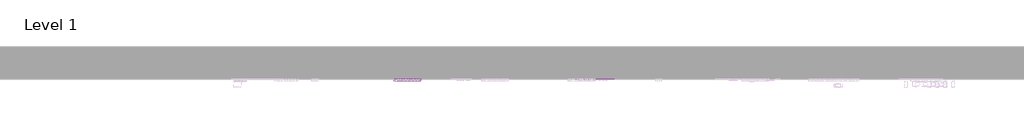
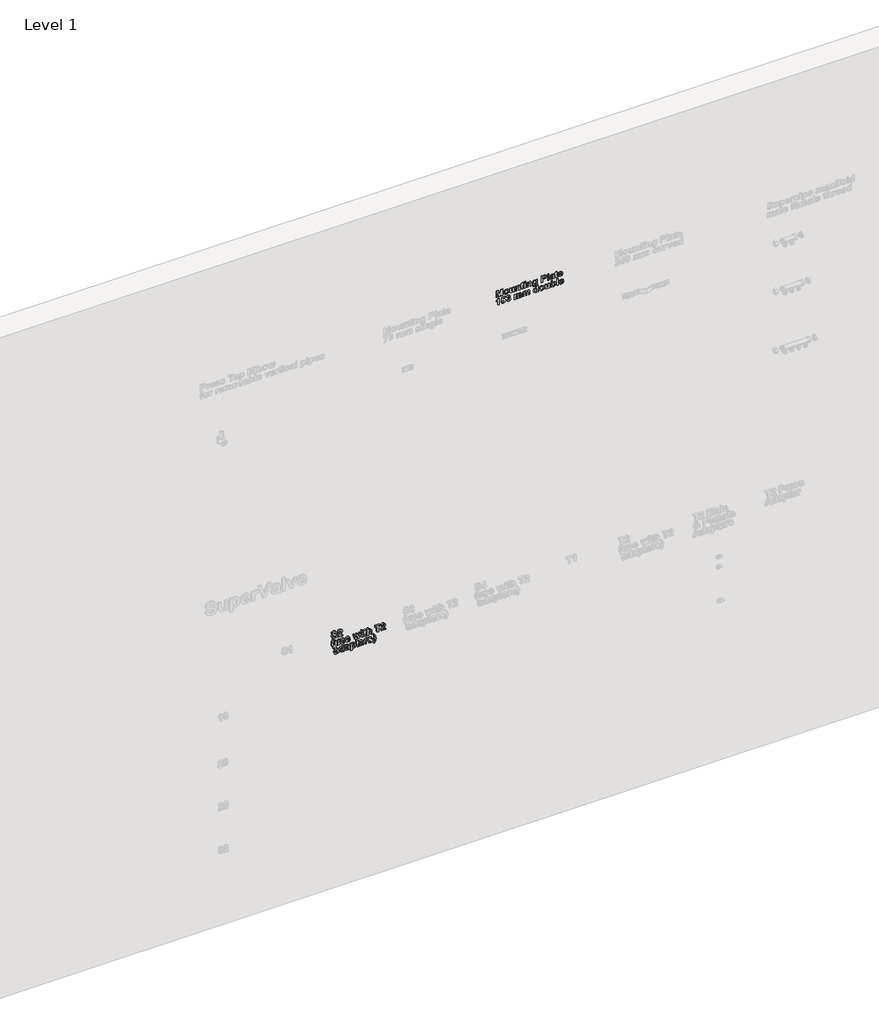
# One storey, part 13 of 58: 2 proxies.
"""IFC4 building model written with IfcOpenShell, lengths in millimetres."""

import ifcopenshell
import ifcopenshell.guid

model = None  # the IFC model being written
_history = None  # IfcOwnerHistory: only IFC2X3 demands one
_inside = {}  # id of a spatial element -> (the spatial element, [elements in it])
_under = {}  # id of a project, library or spatial element -> (it, [spatial elements below it])
_declared = {}  # id of a project -> (the project, [libraries it declares])
_typed = {}  # id of a type object -> (the type object, [elements of that type])
_made_of = {}  # id of a material, layer set ... -> (it, [elements and type objects made of it])


def new_model(schema):
    """Start an empty IFC model of exactly this schema.

    Asked for "IFC4X3", IfcOpenShell would pick the latest addendum, in which some entities
    have other attributes; the version numbers below select the first issue.
    IFC2X3 requires an IfcOwnerHistory on every rooted entity: one is made here for all.
    """
    global model, _history
    if schema == "IFC4X3":
        model = ifcopenshell.file(schema_version=(4, 3, 0, 0))
    else:
        model = ifcopenshell.file(schema=schema)
    _inside.clear()
    _under.clear()
    _declared.clear()
    _typed.clear()
    _made_of.clear()
    _history = None
    if model.schema == "IFC2X3":
        org = make("IfcOrganization", Name="unknown")
        user = make(
            "IfcPersonAndOrganization",
            ThePerson=make("IfcPerson", FamilyName="unknown"),
            TheOrganization=org,
        )
        app = make(
            "IfcApplication",
            ApplicationDeveloper=org,
            Version="unknown",
            ApplicationFullName="unknown",
            ApplicationIdentifier="unknown",
        )
        _history = make(
            "IfcOwnerHistory",
            OwningUser=user,
            OwningApplication=app,
            ChangeAction="ADDED",
            CreationDate=0,
        )
    return model


def make(cls, **values):
    """One entity of the class cls with the attributes given. An attribute that is None is left unset."""
    return model.create_entity(
        cls, **{name: value for name, value in values.items() if value is not None}
    )


def rooted(cls, **values):
    """An entity with a GlobalId (a new one), such as an element, a storey or a relation."""
    return make(cls, GlobalId=ifcopenshell.guid.new(), OwnerHistory=_history, **values)


def si_unit(unit_type, name, prefix=None):
    """IfcSIUnit, for example si_unit("LENGTHUNIT", "METRE", prefix="MILLI")."""
    return make("IfcSIUnit", UnitType=unit_type, Prefix=prefix, Name=name)


def assignment(units):
    """IfcUnitAssignment: the units of a project."""
    return None if units is None else make("IfcUnitAssignment", Units=units)


def point(xyz):
    """IfcCartesianPoint."""
    return None if xyz is None else make("IfcCartesianPoint", Coordinates=xyz)


def direction(xyz):
    """IfcDirection."""
    return None if xyz is None else make("IfcDirection", DirectionRatios=xyz)


def frame(location, z_axis=None, x_axis=None):
    """IfcAxis2Placement3D, a coordinate frame: its origin and axes. An axis left out is left unset."""
    return make(
        "IfcAxis2Placement3D",
        Location=point(location),
        Axis=direction(z_axis),
        RefDirection=direction(x_axis),
    )


def origin():
    """The frame at (0, 0, 0) with its axes left unset."""
    return frame((0.0, 0.0, 0.0))


def place(relative_to, where):
    """IfcLocalPlacement: puts the frame where relative to a parent placement (None: the world)."""
    return make(
        "IfcLocalPlacement", PlacementRelTo=relative_to, RelativePlacement=where
    )


def context(
    kind, dimensions, precision=None, world=None, true_north=None, identifier=None
):
    """IfcGeometricRepresentationContext, for example the 3D "Model" context."""
    return make(
        "IfcGeometricRepresentationContext",
        ContextIdentifier=identifier,
        ContextType=kind,
        CoordinateSpaceDimension=dimensions,
        Precision=precision,
        WorldCoordinateSystem=world,
        TrueNorth=true_north,
    )


def project(units=None, contexts=None):
    """IfcProject with its units and contexts."""
    return rooted(
        "IfcProject",
        Name="project",
        RepresentationContexts=contexts,
        UnitsInContext=assignment(units),
    )


def spatial(cls, under=None, at=None, **own):
    """A site, building, storey or space (cls), placed at a placement, below another one or the project."""
    s = rooted(cls, ObjectPlacement=at, **own)
    if under is not None:
        _under.setdefault(under.id(), (under, []))[1].append(s)
    return s


def polyline(points):
    """IfcPolyline through the points."""
    return make("IfcPolyline", Points=[point(p) for p in points])


def outline(outer, holes=None, kind="AREA"):
    """IfcArbitraryClosedProfileDef: a profile drawn as a closed curve; with holes, ...WithVoids."""
    if holes is None:
        return make("IfcArbitraryClosedProfileDef", ProfileType=kind, OuterCurve=outer)
    return make(
        "IfcArbitraryProfileDefWithVoids",
        ProfileType=kind,
        OuterCurve=outer,
        InnerCurves=holes,
    )


def extrude(swept, where, along, depth):
    """IfcExtrudedAreaSolid: the profile swept, set in the frame where, extruded along a direction by depth."""
    return make(
        "IfcExtrudedAreaSolid",
        SweptArea=swept,
        Position=where,
        ExtrudedDirection=direction(along),
        Depth=depth,
    )


def shape(context_of_items, identifier, shape_type, items):
    """IfcShapeRepresentation: the items that make up one representation, for example the "Body"."""
    return make(
        "IfcShapeRepresentation",
        ContextOfItems=context_of_items,
        RepresentationIdentifier=identifier,
        RepresentationType=shape_type,
        Items=items,
    )


def made_of(thing, what):
    """Note that an element or type object is made of a material, layer set ...; save() writes the relation."""
    if what is not None:
        _made_of.setdefault(what.id(), (what, []))[1].append(thing)
    return thing


def element(
    cls,
    number,
    at=None,
    inside=None,
    cuts=None,
    type_object=None,
    material=None,
    context=None,
    identifier="Body",
    shape_type=None,
    held_by="IfcProductDefinitionShape",
    body=None,
    shapes=None,
    **own,
):
    """One element of the class cls, such as IfcWall. Its Tag is "e" and its number.

    at: its placement. inside: the storey or other place that contains it. cuts: it is an
    opening in that element (IfcRelVoidsElement). A single representation is given by context,
    identifier, shape_type and body (its items); several are given by shapes. held_by: the class
    of the entity that holds the representations. save() writes the other relations.
    """
    e = rooted(cls, Tag="e%d" % number, ObjectPlacement=at, **own)
    if body is not None:
        shapes = [shape(context, identifier, shape_type, body)]
    if shapes is not None:
        e.Representation = make(held_by, Representations=shapes)
    if inside is not None:
        _inside.setdefault(inside.id(), (inside, []))[1].append(e)
    if cuts is not None:
        rooted(
            "IfcRelVoidsElement", RelatingBuildingElement=cuts, RelatedOpeningElement=e
        )
    if type_object is not None:
        _typed.setdefault(type_object.id(), (type_object, []))[1].append(e)
    return made_of(e, material)


def aggregate(whole, parts):
    """IfcRelAggregates: a whole, such as a stair, and the parts it consists of."""
    return rooted("IfcRelAggregates", RelatingObject=whole, RelatedObjects=parts)


def save(model, path):
    """Write the relations noted so far, then the file.

    IfcRelAggregates (storeys below a building ...), IfcRelContainedInSpatialStructure (elements
    in a storey), IfcRelDefinesByType, IfcRelAssociatesMaterial and IfcRelDeclares: one each for
    every whole, place, type object, material and project.
    """
    for whole, parts in _under.values():
        aggregate(whole, parts)
    for where, things in _inside.values():
        rooted(
            "IfcRelContainedInSpatialStructure",
            RelatedElements=things,
            RelatingStructure=where,
        )
    for kind, things in _typed.values():
        rooted("IfcRelDefinesByType", RelatedObjects=things, RelatingType=kind)
    for what, things in _made_of.values():
        rooted("IfcRelAssociatesMaterial", RelatedObjects=things, RelatingMaterial=what)
    for by, libraries in _declared.values():
        rooted("IfcRelDeclares", RelatingContext=by, RelatedDefinitions=libraries)
    model.write(path)


model = new_model("IFC4")

# Units and contexts
model_context = context("Model", 3, world=origin())
ifc_project = project(units=[si_unit("LENGTHUNIT", "METRE", prefix="MILLI")], contexts=[model_context])

# Site, building, storey
site = spatial("IfcSite", under=ifc_project)
building = spatial("IfcBuilding", under=site)
storey = spatial("IfcBuildingStorey", under=building, Name="Level 1", Elevation=27.3876384)

# Proxies
placement = place(None, origin())
element("IfcBuildingElementProxy", 1, Name="50mm Arial", ObjectType="50mm Arial", at=placement, inside=storey, context=model_context, shape_type="SweptSolid", body=[
    extrude(outline(polyline([(4250.1944926, 13698.641265), (4250.1944926, 13708.3580212), (4290.352024, 13708.762886), (4250.1944926, 13717.6572605), (4250.1944926, 13729.0314322), (4290.352024, 13737.9131546), (4250.1944926, 13738.3180194), (4250.1944926, 13748.0347756), (4301.2074626, 13748.0347756), (4301.2074626, 13731.384709), (4266.4143903, 13723.3380203), (4301.2074626, 13715.2913316), (4301.2074626, 13698.641265), (4250.1944926, 13698.641265)])), frame((0.0, 4542.8703674, 0.0), z_axis=(0.0, 1.0, 0.0), x_axis=(0.0, 0.0, 1.0)), (0.0, 0.0, 1.0), 2.0),
    extrude(outline(polyline([(4269.3496604, 13755.3223428), (4258.4689177, 13757.7199018), (4251.6937577, 13764.7164723), (4249.3847629, 13774.3889464), (4254.9326764, 13787.9772226), (4268.9194915, 13793.3796379), (4282.7734602, 13788.0341568), (4288.2517876, 13774.3130342), (4285.8352506, 13764.5077139), (4278.8323541, 13757.7199018), (4269.3496604, 13755.3223428)]), holes=[polyline([(4268.8182753, 13765.039099), (4277.832844, 13767.7276546), (4280.9642205, 13774.3636423), (4277.832844, 13780.9869781), (4268.8941874, 13783.6628817), (4259.8037065, 13780.9869781), (4256.67233, 13774.3636423), (4259.8037065, 13767.7276546), (4268.8182753, 13765.039099)])]), frame((0.0, 4542.8703674, 0.0), z_axis=(0.0, 1.0, 0.0), x_axis=(0.0, 0.0, 1.0)), (0.0, 0.0, 1.0), 2.0),
    extrude(outline(polyline([(4250.1944926, 13824.1493658), (4250.1944926, 13833.866122), (4287.4420579, 13833.866122), (4287.4420579, 13824.1493658), (4271.6396771, 13824.1493658), (4261.5243821, 13823.4345263), (4258.0640529, 13820.7776008), (4256.67233, 13816.3810217), (4257.7161222, 13812.8321283), (4260.537524, 13810.9090203), (4270.2226502, 13810.3839612), (4287.4420579, 13810.3839612), (4287.4420579, 13800.667205), (4263.896637, 13800.667205), (4255.6538419, 13801.9324076), (4251.0295263, 13806.0316641), (4249.3847629, 13812.4209374), (4251.0611564, 13819.0695772), (4255.6601679, 13824.1493658), (4250.1944926, 13824.1493658)])), frame((0.0, 4542.8703674, 0.0), z_axis=(0.0, 1.0, 0.0), x_axis=(0.0, 0.0, 1.0)), (0.0, 0.0, 1.0), 2.0),
    extrude(outline(polyline([(4250.1944926, 13876.7817952), (4273.3223966, 13876.7817952), (4279.9457324, 13876.2693881), (4284.076619, 13874.4411703), (4287.0751492, 13870.5696502), (4288.2517876, 13864.9268465), (4286.7082404, 13858.5154322), (4282.0775988, 13853.2996344), (4287.4420579, 13853.2996344), (4287.4420579, 13843.5828782), (4250.1944926, 13843.5828782), (4250.1944926, 13853.2996344), (4267.1861639, 13853.2996344), (4275.8085198, 13854.0271259), (4279.5535196, 13856.7220075), (4280.9642205, 13861.1691947), (4279.9773624, 13864.4713736), (4277.2065687, 13866.4577417), (4269.3370083, 13867.065039), (4250.1944926, 13867.065039), (4250.1944926, 13876.7817952)])), frame((0.0, 4542.8703674, 0.0), z_axis=(0.0, 1.0, 0.0), x_axis=(0.0, 0.0, 1.0)), (0.0, 0.0, 1.0), 2.0),
    extrude(outline(polyline([(4287.4420579, 13904.3126044), (4287.4420579, 13897.0250372), (4300.3977329, 13897.0250372), (4294.7296251, 13887.308281), (4287.4420579, 13887.308281), (4287.4420579, 13882.4499029), (4280.1544908, 13882.4499029), (4280.1544908, 13887.308281), (4263.6309445, 13887.308281), (4256.5584618, 13887.6245817), (4252.6489857, 13889.0479346), (4250.2957088, 13892.2552233), (4249.3847629, 13897.1642095), (4250.7005736, 13905.122334), (4257.60858, 13904.7174692), (4256.67233, 13900.1627397), (4257.1973891, 13898.2522838), (4258.5258519, 13897.2464477), (4264.1749816, 13897.0250372), (4280.1544908, 13897.0250372), (4280.1544908, 13904.3126044), (4287.4420579, 13904.3126044)])), frame((0.0, 4542.8703674, 0.0), z_axis=(0.0, 1.0, 0.0), x_axis=(0.0, 0.0, 1.0)), (0.0, 0.0, 1.0), 2.0),
    extrude(outline(polyline([(13919.6974683, 4542.8703674), (13909.9807121, 4542.8703674), (13909.9807121, 4544.8703674), (13919.6974683, 4544.8703674), (13919.6974683, 4542.8703674)])), frame((0.0, 0.0, 4292.300436), z_axis=(0.0, 0.0, 1.0), x_axis=(1.0, 0.0, 0.0)), (0.0, 0.0, 1.0), 8.9070265),
    extrude(outline(polyline([(13919.6974683, 4542.8703674), (13909.9807121, 4542.8703674), (13909.9807121, 4544.8703674), (13919.6974683, 4544.8703674), (13919.6974683, 4542.8703674)])), frame((0.0, 0.0, 4250.1944926), z_axis=(0.0, 0.0, 1.0), x_axis=(1.0, 0.0, 0.0)), (0.0, 0.0, 1.0), 37.2475654),
    extrude(outline(polyline([(4250.1944926, 13962.6131415), (4273.3223966, 13962.6131415), (4279.9457324, 13962.1007344), (4284.076619, 13960.2725166), (4287.0751492, 13956.4009966), (4288.2517876, 13950.7581929), (4286.7082404, 13944.3467785), (4282.0775988, 13939.1309807), (4287.4420579, 13939.1309807), (4287.4420579, 13929.4142245), (4250.1944926, 13929.4142245), (4250.1944926, 13939.1309807), (4267.1861639, 13939.1309807), (4275.8085198, 13939.8584722), (4279.5535196, 13942.5533538), (4280.9642205, 13947.0005411), (4279.9773624, 13950.3027199), (4277.2065687, 13952.2890881), (4269.3370083, 13952.8963853), (4250.1944926, 13952.8963853), (4250.1944926, 13962.6131415)])), frame((0.0, 4542.8703674, 0.0), z_axis=(0.0, 1.0, 0.0), x_axis=(0.0, 0.0, 1.0)), (0.0, 0.0, 1.0), 2.0),
    extrude(outline(polyline([(4247.1959623, 13971.50119), (4238.7317567, 13975.3284279), (4235.6193583, 13988.372667), (4236.6631504, 13996.4256818), (4239.5414864, 14001.5117963), (4244.6086229, 14004.4723705), (4254.3570092, 14005.5288147), (4287.4420579, 14005.5288147), (4287.4420579, 13995.8120585), (4282.3938995, 13995.8120585), (4288.2517876, 13984.9313159), (4283.3111714, 13974.2087236), (4269.0080556, 13969.9007086), (4256.5331577, 13973.1902355), (4251.7791588, 13978.1276887), (4250.1944926, 13984.5644071), (4256.5078537, 13995.8120585), (4251.0801344, 13995.8120585), (4246.550709, 13995.3818896), (4244.0582598, 13993.5599978), (4242.9069254, 13988.1702346), (4243.8178713, 13984.0583261), (4246.1458441, 13982.8563836), (4247.1959623, 13971.50119)]), holes=[polyline([(4269.3749644, 13979.6174648), (4278.1048625, 13981.8631995), (4280.9642205, 13987.5755894), (4278.0479284, 13993.4777596), (4269.1092719, 13995.8120585), (4260.4173298, 13993.3765434), (4257.4820597, 13987.411113), (4260.3414176, 13981.8631995), (4269.3749644, 13979.6174648)])]), frame((0.0, 4542.8703674, 0.0), z_axis=(0.0, 1.0, 0.0), x_axis=(0.0, 0.0, 1.0)), (0.0, 0.0, 1.0), 2.0),
    extrude(outline(polyline([(4250.1944926, 14034.6790832), (4250.1944926, 14044.3958394), (4269.6280049, 14044.3958394), (4269.6280049, 14051.2026296), (4270.3491704, 14062.0201121), (4272.7593814, 14067.4288533), (4277.7569318, 14071.8191064), (4285.6075141, 14073.546108), (4295.4824207, 14070.6045119), (4300.448341, 14063.2979667), (4301.2074626, 14051.1140654), (4301.2074626, 14034.6790832), (4250.1944926, 14034.6790832)]), holes=[polyline([(4292.300436, 14044.3958394), (4292.300436, 14049.7223425), (4291.9714834, 14057.655163), (4289.8206389, 14062.0770462), (4285.4556898, 14063.8293518), (4281.67906, 14062.5831272), (4279.294153, 14059.1417761), (4278.5350314, 14050.430856), (4278.5350314, 14044.3958394), (4292.300436, 14044.3958394)])]), frame((0.0, 4542.8703674, 0.0), z_axis=(0.0, 1.0, 0.0), x_axis=(0.0, 0.0, 1.0)), (0.0, 0.0, 1.0), 2.0),
    extrude(outline(polyline([(14091.360161, 4542.8703674), (14081.6434048, 4542.8703674), (14081.6434048, 4544.8703674), (14091.360161, 4544.8703674), (14091.360161, 4542.8703674)])), frame((0.0, 0.0, 4250.1944926), z_axis=(0.0, 0.0, 1.0), x_axis=(1.0, 0.0, 0.0)), (0.0, 0.0, 1.0), 51.01297),
    extrude(outline(polyline([(4276.1058424, 14109.174214), (4279.8887983, 14111.2238423), (4280.9642205, 14114.7537576), (4279.7116699, 14119.3021611), (4274.486383, 14120.5104296), (4272.069846, 14111.4642308), (4269.7798292, 14104.0627954), (4265.9968734, 14100.0710811), (4260.3793737, 14098.6477282), (4252.5034874, 14101.8423648), (4249.3847629, 14110.578589), (4250.6689435, 14116.4870852), (4253.281587, 14122.0286727), (4250.1944926, 14122.9396186), (4250.1944926, 14132.6563748), (4255.1920429, 14130.7395928), (4262.429002, 14130.2271858), (4273.9170418, 14130.2271858), (4282.7291782, 14128.9872872), (4286.6892624, 14124.7109023), (4288.2517876, 14115.4622711), (4285.6707743, 14105.1571957), (4277.7253018, 14100.2671875), (4276.1058424, 14109.174214)]), holes=[polyline([(4267.1988159, 14120.5104296), (4265.4401842, 14120.5104296), (4261.1511473, 14120.1561729), (4258.2411813, 14118.0053284), (4256.67233, 14113.3620347), (4258.0197708, 14109.7751853), (4261.2144075, 14108.3644844), (4264.3141539, 14110.123116), (4265.8513751, 14115.0321022), (4267.1988159, 14120.5104296)])]), frame((0.0, 4542.8703674, 0.0), z_axis=(0.0, 1.0, 0.0), x_axis=(0.0, 0.0, 1.0)), (0.0, 0.0, 1.0), 2.0),
    extrude(outline(polyline([(4287.4420579, 14157.757995), (4287.4420579, 14150.4704278), (4300.3977329, 14150.4704278), (4294.7296251, 14140.7536717), (4287.4420579, 14140.7536717), (4287.4420579, 14135.8952936), (4280.1544908, 14135.8952936), (4280.1544908, 14140.7536717), (4263.6309445, 14140.7536717), (4256.5584618, 14141.0699723), (4252.6489857, 14142.4933253), (4250.2957088, 14145.7006139), (4249.3847629, 14150.6096001), (4250.7005736, 14158.5677247), (4257.60858, 14158.1628598), (4256.67233, 14153.6081304), (4257.1973891, 14151.6976744), (4258.5258519, 14150.6918383), (4264.1749816, 14150.4704278), (4280.1544908, 14150.4704278), (4280.1544908, 14157.757995), (4287.4420579, 14157.757995)])), frame((0.0, 4542.8703674, 0.0), z_axis=(0.0, 1.0, 0.0), x_axis=(0.0, 0.0, 1.0)), (0.0, 0.0, 1.0), 2.0),
    extrude(outline(polyline([(4261.5307081, 14184.4790745), (4257.8236644, 14182.1890578), (4256.67233, 14178.45671), (4259.2280393, 14173.0036867), (4266.3890862, 14170.7136699), (4266.3890862, 14195.0055604), (4282.8746765, 14190.514091), (4288.2517876, 14177.6975884), (4283.0138487, 14165.7287715), (4268.5399307, 14160.9969137), (4255.723428, 14164.5647851), (4250.9694292, 14170.3056421), (4249.3847629, 14178.4946661), (4252.0733185, 14188.4012027), (4259.9112487, 14194.1958307), (4261.5307081, 14184.4790745)]), holes=[polyline([(4272.057194, 14185.2888042), (4272.057194, 14170.8781462), (4278.5729875, 14172.9024705), (4280.9642205, 14178.1151053), (4278.6931818, 14183.1253077), (4272.057194, 14185.2888042)])]), frame((0.0, 4542.8703674, 0.0), z_axis=(0.0, 1.0, 0.0), x_axis=(0.0, 0.0, 1.0)), (0.0, 0.0, 1.0), 2.0),
    extrude(outline(polyline([(4187.2388176, 13721.3136961), (4238.2517876, 13721.3136961), (4238.2517876, 13713.570656), (4230.0596006, 13707.5609435), (4225.2961127, 13699.4509947), (4215.5793565, 13699.4509947), (4223.7019574, 13711.5969399), (4187.2388176, 13711.5969399), (4187.2388176, 13721.3136961)])), frame((0.0, 4542.8703674, 0.0), z_axis=(0.0, 1.0, 0.0), x_axis=(0.0, 0.0, 1.0)), (0.0, 0.0, 1.0), 2.0),
    extrude(outline(polyline([(4201.5988675, 13735.8888304), (4190.5409965, 13741.0445311), (4186.429088, 13752.1846403), (4188.0675254, 13759.8043231), (4192.9828376, 13765.557832), (4203.9015363, 13769.0877474), (4215.8387231, 13764.8493186), (4220.4377346, 13754.5252651), (4218.4513665, 13748.2625121), (4227.7253018, 13750.2235762), (4227.7253018, 13766.6585583), (4237.4420579, 13766.6585583), (4237.4420579, 13742.3666679), (4208.7346103, 13736.6985601), (4207.4820597, 13745.1248096), (4211.5307081, 13752.2352484), (4209.569644, 13757.3909491), (4203.6864518, 13759.3709912), (4197.4173728, 13757.2391248), (4195.3361145, 13752.0328159), (4197.2971785, 13747.2756541), (4202.6236816, 13744.7958569), (4201.5988675, 13735.8888304)])), frame((0.0, 4542.8703674, 0.0), z_axis=(0.0, 1.0, 0.0), x_axis=(0.0, 0.0, 1.0)), (0.0, 0.0, 1.0), 2.0),
    extrude(outline(polyline([(4201.4976513, 13774.7558552), (4190.5979306, 13779.8103397), (4186.429088, 13790.7859725), (4191.1166637, 13802.4574667), (4202.4465532, 13807.1450425), (4210.2718315, 13804.500769), (4214.4406742, 13797.4409383), (4219.1187609, 13802.8971246), (4225.1569404, 13804.7158534), (4233.6591021, 13801.3251104), (4238.2517876, 13790.4190637), (4236.5943722, 13783.2390388), (4232.0459687, 13778.2414884), (4224.3219067, 13775.5655848), (4222.8669237, 13785.282341), (4227.6936717, 13787.0219946), (4229.3447611, 13790.4823238), (4227.9214082, 13793.7655247), (4224.1068222, 13794.9990972), (4219.6027009, 13793.3480078), (4218.0085456, 13788.5592158), (4209.9998129, 13787.7115301), (4210.7209784, 13791.5703981), (4208.7093062, 13795.7265887), (4203.2562829, 13797.4282863), (4197.4806329, 13795.5684384), (4195.3361145, 13790.9757529), (4197.2086143, 13786.6614119), (4202.6236816, 13784.4726114), (4201.4976513, 13774.7558552)])), frame((0.0, 4542.8703674, 0.0), z_axis=(0.0, 1.0, 0.0), x_axis=(0.0, 0.0, 1.0)), (0.0, 0.0, 1.0), 2.0),
    extrude(outline(polyline([(4224.486383, 13833.866122), (4187.2388176, 13833.866122), (4187.2388176, 13843.5828782), (4205.4703875, 13843.5828782), (4213.2071016, 13844.3419998), (4216.774973, 13846.847101), (4218.0085456, 13850.7818811), (4217.230446, 13853.6602171), (4214.864517, 13855.2227424), (4207.7983604, 13855.7288234), (4187.2388176, 13855.7288234), (4187.2388176, 13865.4455796), (4205.2553031, 13865.4455796), (4213.0109952, 13866.2236792), (4216.7370169, 13868.7667365), (4218.0085456, 13872.5307143), (4215.8830052, 13876.6046668), (4208.6840022, 13877.5915248), (4187.2388176, 13877.5915248), (4187.2388176, 13887.308281), (4211.0372791, 13887.308281), (4218.7423631, 13886.321423), (4223.6323713, 13882.1715584), (4225.2961127, 13875.4027243), (4223.8727598, 13869.47525), (4219.5647448, 13864.3068972), (4223.8727598, 13860.2645748), (4225.2961127, 13854.4509688), (4219.5014847, 13843.5828782), (4224.486383, 13843.5828782), (4224.486383, 13833.866122)])), frame((0.0, 4542.8703674, 0.0), z_axis=(0.0, 1.0, 0.0), x_axis=(0.0, 0.0, 1.0)), (0.0, 0.0, 1.0), 2.0),
    extrude(outline(polyline([(4224.486383, 13896.2153075), (4187.2388176, 13896.2153075), (4187.2388176, 13905.9320637), (4205.4703875, 13905.9320637), (4213.2071016, 13906.6911853), (4216.774973, 13909.1962865), (4218.0085456, 13913.1310667), (4217.230446, 13916.0094027), (4214.864517, 13917.5719279), (4207.7983604, 13918.078009), (4187.2388176, 13918.078009), (4187.2388176, 13927.7947652), (4205.2553031, 13927.7947652), (4213.0109952, 13928.5728648), (4216.7370169, 13931.1159221), (4218.0085456, 13934.8798999), (4215.8830052, 13938.9538523), (4208.6840022, 13939.9407104), (4187.2388176, 13939.9407104), (4187.2388176, 13949.6574666), (4211.0372791, 13949.6574666), (4218.7423631, 13948.6706085), (4223.6323713, 13944.5207439), (4225.2961127, 13937.7519098), (4223.8727598, 13931.8244355), (4219.5647448, 13926.6560828), (4223.8727598, 13922.6137604), (4225.2961127, 13916.8001543), (4219.5014847, 13905.9320637), (4224.486383, 13905.9320637), (4224.486383, 13896.2153075)])), frame((0.0, 4542.8703674, 0.0), z_axis=(0.0, 1.0, 0.0), x_axis=(0.0, 0.0, 1.0)), (0.0, 0.0, 1.0), 2.0),
    extrude(outline(polyline([(4187.2388176, 14012.0066521), (4238.2517876, 14012.0066521), (4238.2517876, 14002.2898959), (4220.1973461, 14002.2898959), (4225.2961127, 13991.738106), (4220.3744745, 13980.7308431), (4206.0017726, 13976.3785461), (4191.5911147, 13980.7371692), (4186.429088, 13991.2067209), (4187.9536571, 13997.1594993), (4192.6032768, 14002.2898959), (4187.2388176, 14002.2898959), (4187.2388176, 14012.0066521)]), holes=[polyline([(4206.5711138, 13986.0953023), (4215.1365356, 13988.4232751), (4218.0085456, 13994.1925991), (4215.1049055, 14000.0188572), (4205.5969078, 14002.2898959), (4196.6962073, 13999.9492711), (4193.7166551, 13994.2558593), (4197.6893913, 13987.7147617), (4206.5711138, 13986.0953023)])]), frame((0.0, 4542.8703674, 0.0), z_axis=(0.0, 1.0, 0.0), x_axis=(0.0, 0.0, 1.0)), (0.0, 0.0, 1.0), 2.0),
    extrude(outline(polyline([(4206.3939854, 14019.2942193), (4195.5132428, 14021.6917783), (4188.7380827, 14028.6883488), (4186.429088, 14038.3608229), (4191.9770015, 14051.9490991), (4205.9638165, 14057.3515144), (4219.8177853, 14052.0060332), (4225.2961127, 14038.2849107), (4222.8795757, 14028.4795904), (4215.8766791, 14021.6917783), (4206.3939854, 14019.2942193)]), holes=[polyline([(4205.8626003, 14029.0109755), (4214.8771691, 14031.6995311), (4218.0085456, 14038.3355188), (4214.8771691, 14044.9588546), (4205.9385125, 14047.6347582), (4196.8480316, 14044.9588546), (4193.7166551, 14038.3355188), (4196.8480316, 14031.6995311), (4205.8626003, 14029.0109755)])]), frame((0.0, 4542.8703674, 0.0), z_axis=(0.0, 1.0, 0.0), x_axis=(0.0, 0.0, 1.0)), (0.0, 0.0, 1.0), 2.0),
    extrude(outline(polyline([(4187.2388176, 14088.1212423), (4187.2388176, 14097.8379985), (4224.486383, 14097.8379985), (4224.486383, 14088.1212423), (4208.6840022, 14088.1212423), (4198.5687072, 14087.4064028), (4195.108378, 14084.7494773), (4193.7166551, 14080.3528981), (4194.7604473, 14076.8040048), (4197.5818491, 14074.8808968), (4207.2669752, 14074.3558377), (4224.486383, 14074.3558377), (4224.486383, 14064.6390815), (4200.9409621, 14064.6390815), (4192.698167, 14065.9042841), (4188.0738514, 14070.0035406), (4186.429088, 14076.3928139), (4188.1054814, 14083.0414537), (4192.704493, 14088.1212423), (4187.2388176, 14088.1212423)])), frame((0.0, 4542.8703674, 0.0), z_axis=(0.0, 1.0, 0.0), x_axis=(0.0, 0.0, 1.0)), (0.0, 0.0, 1.0), 2.0),
    extrude(outline(polyline([(4187.2388176, 14107.5547547), (4187.2388176, 14117.2715109), (4192.6032768, 14117.2715109), (4187.9852872, 14122.3639514), (4186.429088, 14128.3546859), (4191.5784627, 14138.8558677), (4206.2421611, 14143.1828607), (4220.3744745, 14138.8305637), (4225.2961127, 14127.8233008), (4220.1973461, 14117.2715109), (4238.2517876, 14117.2715109), (4238.2517876, 14107.5547547), (4187.2388176, 14107.5547547)]), holes=[polyline([(4206.5711138, 14117.2715109), (4215.1744917, 14119.5805057), (4218.0085456, 14125.3688077), (4215.1049055, 14131.1950658), (4205.6222118, 14133.4661045), (4196.5886651, 14131.2077178), (4193.7166551, 14125.7483685), (4197.7653035, 14119.0680986), (4206.5711138, 14117.2715109)])]), frame((0.0, 4542.8703674, 0.0), z_axis=(0.0, 1.0, 0.0), x_axis=(0.0, 0.0, 1.0)), (0.0, 0.0, 1.0), 2.0),
    extrude(outline(polyline([(14160.187184, 4542.8703674), (14150.4704278, 4542.8703674), (14150.4704278, 4544.8703674), (14160.187184, 4544.8703674), (14160.187184, 4542.8703674)])), frame((0.0, 0.0, 4187.2388176), z_axis=(0.0, 0.0, 1.0), x_axis=(1.0, 0.0, 0.0)), (0.0, 0.0, 1.0), 51.01297),
    extrude(outline(polyline([(4198.5750332, 14190.956912), (4194.8679895, 14188.6668952), (4193.7166551, 14184.9345475), (4196.2723644, 14179.4815241), (4203.4334113, 14177.1915074), (4203.4334113, 14201.4833978), (4219.9190015, 14196.9919285), (4225.2961127, 14184.1754259), (4220.0581738, 14172.206609), (4205.5842558, 14167.4747512), (4192.7677531, 14171.0426226), (4188.0137542, 14176.7834795), (4186.429088, 14184.9725035), (4189.1176435, 14194.8790401), (4196.9555738, 14200.6736682), (4198.5750332, 14190.956912)]), holes=[polyline([(4209.1015191, 14191.7666417), (4209.1015191, 14177.3559837), (4215.6173126, 14179.3803079), (4218.0085456, 14184.5929427), (4215.7375068, 14189.6031452), (4209.1015191, 14191.7666417)])]), frame((0.0, 4542.8703674, 0.0), z_axis=(0.0, 1.0, 0.0), x_axis=(0.0, 0.0, 1.0)), (0.0, 0.0, 1.0), 2.0),
])
element("IfcBuildingElementProxy", 2, Name="50mm Arial", ObjectType="50mm Arial", at=placement, inside=storey, context=model_context, shape_type="SweptSolid", body=[
    extrude(outline(polyline([(2015.3412334, 12467.5935898), (2002.0755838, 12473.7551266), (1997.5271803, 12488.5579974), (1999.3743762, 12499.6095424), (2005.0171799, 12506.4669406), (2013.1650848, 12508.8898036), (2021.2244256, 12506.8401754), (2026.3674743, 12501.1720676), (2029.9606497, 12489.9940024), (2033.2818066, 12480.4733526), (2036.330945, 12478.9298054), (2039.4433434, 12480.6251769), (2041.2525832, 12487.88744), (2039.5508857, 12494.624644), (2033.9650161, 12497.5535881), (2033.9650161, 12507.2703443), (2045.7440525, 12502.1905557), (2050.1596097, 12487.7735718), (2048.388326, 12477.765819), (2043.2389513, 12471.4145018), (2035.9766882, 12469.2130492), (2025.741199, 12474.0081672), (2020.7689526, 12485.8757678), (2018.6054561, 12494.3020173), (2016.4229816, 12498.0912992), (2013.3801693, 12499.1730475), (2008.5154652, 12496.56673), (2006.4342068, 12488.8110379), (2008.7874837, 12481.1059539), (2016.150963, 12477.310346), (2015.3412334, 12467.5935898)])), frame((0.0, 4529.8703674, 0.0), z_axis=(0.0, 1.0, 0.0), x_axis=(0.0, 0.0, 1.0)), (0.0, 0.0, 1.0), 15.0),
    extrude(outline(polyline([(2008.0536662, 12547.7568284), (2008.0536662, 12529.6517788), (2010.7105917, 12531.4736706), (2016.2395272, 12537.0215841), (2022.6161485, 12543.0629267), (2029.0054217, 12546.6307981), (2035.4326511, 12547.7568284), (2045.3581657, 12543.6449199), (2049.34988, 12532.3340084), (2045.7883346, 12521.3900056), (2034.0409282, 12516.1773708), (2033.1552864, 12525.894127), (2038.753808, 12527.7666269), (2040.4428535, 12532.1189239), (2038.728504, 12536.4648949), (2033.8131917, 12538.0400722), (2027.9679556, 12536.1675723), (2019.8200507, 12528.6522687), (2007.8702118, 12518.4673875), (1998.33691, 12515.3676411), (1998.33691, 12547.7568284), (2008.0536662, 12547.7568284)])), frame((0.0, 4529.8703674, 0.0), z_axis=(0.0, 1.0, 0.0), x_axis=(0.0, 0.0, 1.0)), (0.0, 0.0, 1.0), 15.0),
    extrude(outline(polyline([(1921.6158305, 12485.4076429), (1931.497063, 12481.624687), (1942.5106519, 12479.0563257), (1953.8405415, 12478.1200757), (1969.022973, 12479.682601), (1986.3942051, 12485.4076429), (1986.3942051, 12478.9298054), (1972.4769762, 12471.6928464), (1954.0429739, 12468.4033195), (1937.7914461, 12471.0918751), (1921.6158305, 12478.9298054), (1921.6158305, 12485.4076429)])), frame((0.0, 4529.8703674, 0.0), z_axis=(0.0, 1.0, 0.0), x_axis=(0.0, 0.0, 1.0)), (0.0, 0.0, 1.0), 15.0),
    extrude(outline(polyline([(1935.3812351, 12516.9871005), (1935.3812351, 12526.7038567), (1972.6288005, 12526.7038567), (1972.6288005, 12516.9871005), (1956.8264197, 12516.9871005), (1946.7111246, 12516.272261), (1943.2507955, 12513.6153355), (1941.8590726, 12509.2187563), (1942.9028647, 12505.669863), (1945.7242666, 12503.746755), (1955.4093927, 12503.2216959), (1972.6288005, 12503.2216959), (1972.6288005, 12493.5049397), (1949.0833796, 12493.5049397), (1940.8405844, 12494.7701423), (1936.2162688, 12498.8693988), (1934.5715054, 12505.2586721), (1936.2478989, 12511.9073119), (1940.8469105, 12516.9871005), (1935.3812351, 12516.9871005)])), frame((0.0, 4529.8703674, 0.0), z_axis=(0.0, 1.0, 0.0), x_axis=(0.0, 0.0, 1.0)), (0.0, 0.0, 1.0), 15.0),
    extrude(outline(polyline([(1945.907721, 12532.3719644), (1937.6206438, 12538.0463982), (1934.5715054, 12549.8191087), (1938.234267, 12562.1991164), (1946.9957952, 12566.3806111), (1954.2960144, 12563.4959491), (1958.6356594, 12553.2288298), (1961.3558451, 12544.6317779), (1963.1144767, 12543.70818), (1965.0881928, 12544.6317779), (1966.150963, 12549.2497675), (1964.8984124, 12553.1718957), (1961.2925849, 12555.0443955), (1962.9120443, 12564.7611517), (1970.7816047, 12559.8648176), (1973.4385302, 12548.996727), (1970.1490033, 12537.6478594), (1962.0390545, 12533.9914238), (1953.6760651, 12538.2551567), (1948.9189032, 12552.8176389), (1947.6410486, 12555.9932975), (1945.8191568, 12556.6638549), (1943.2381434, 12555.3986523), (1941.8590726, 12549.8191087), (1943.3014036, 12544.5748438), (1947.5271803, 12542.0887206), (1945.907721, 12532.3719644)])), frame((0.0, 4529.8703674, 0.0), z_axis=(0.0, 1.0, 0.0), x_axis=(0.0, 0.0, 1.0)), (0.0, 0.0, 1.0), 15.0),
    extrude(outline(polyline([(1946.7174507, 12596.3406094), (1943.010407, 12594.0505926), (1941.8590726, 12590.3182448), (1944.4147819, 12584.8652215), (1951.5758288, 12582.5752048), (1951.5758288, 12606.8670952), (1968.061419, 12602.3756259), (1973.4385302, 12589.5591233), (1968.2005913, 12577.5903064), (1953.7266732, 12572.8584486), (1940.9101706, 12576.42632), (1936.1561717, 12582.1671769), (1934.5715054, 12590.3562009), (1937.260061, 12600.2627375), (1945.0979913, 12606.0573655), (1946.7174507, 12596.3406094)]), holes=[polyline([(1957.2439365, 12597.150339), (1957.2439365, 12582.7396811), (1963.7597301, 12584.7640053), (1966.150963, 12589.9766401), (1963.8799243, 12594.9868425), (1957.2439365, 12597.150339)])]), frame((0.0, 4529.8703674, 0.0), z_axis=(0.0, 1.0, 0.0), x_axis=(0.0, 0.0, 1.0)), (0.0, 0.0, 1.0), 15.0),
    extrude(outline(polyline([(1935.3812351, 12641.3565189), (1935.3812351, 12651.035319), (1959.3315209, 12657.4752004), (1935.3812351, 12664.0795581), (1935.3812351, 12673.6191859), (1972.6288005, 12685.4108744), (1972.6288005, 12675.8332905), (1948.2230418, 12668.8114159), (1972.6288005, 12662.4221427), (1972.6288005, 12652.6800824), (1948.2230418, 12646.1389848), (1972.6288005, 12639.1424143), (1972.6288005, 12629.5395263), (1935.3812351, 12641.3565189)])), frame((0.0, 4529.8703674, 0.0), z_axis=(0.0, 1.0, 0.0), x_axis=(0.0, 0.0, 1.0)), (0.0, 0.0, 1.0), 15.0),
    extrude(outline(polyline([(12699.9860087, 4529.8703674), (12690.2692525, 4529.8703674), (12690.2692525, 4544.8703674), (12699.9860087, 4544.8703674), (12699.9860087, 4529.8703674)])), frame((0.0, 0.0, 1977.4871786), z_axis=(0.0, 0.0, 1.0), x_axis=(1.0, 0.0, 0.0)), (0.0, 0.0, 1.0), 8.9070265),
    extrude(outline(polyline([(12699.9860087, 4529.8703674), (12690.2692525, 4529.8703674), (12690.2692525, 4544.8703674), (12699.9860087, 4544.8703674), (12699.9860087, 4529.8703674)])), frame((0.0, 0.0, 1935.3812351), z_axis=(0.0, 0.0, 1.0), x_axis=(1.0, 0.0, 0.0)), (0.0, 0.0, 1.0), 37.2475654),
    extrude(outline(polyline([(1972.6288005, 12727.5168179), (1972.6288005, 12720.2292508), (1985.5844754, 12720.2292508), (1979.9163676, 12710.5124946), (1972.6288005, 12710.5124946), (1972.6288005, 12705.6541165), (1965.3412334, 12705.6541165), (1965.3412334, 12710.5124946), (1948.817687, 12710.5124946), (1941.7452043, 12710.8287952), (1937.8357282, 12712.2521482), (1935.4824513, 12715.4594369), (1934.5715054, 12720.3684231), (1935.8873162, 12728.3265476), (1942.7953225, 12727.9216828), (1941.8590726, 12723.3669533), (1942.3841317, 12721.4564973), (1943.7125944, 12720.4506612), (1949.3617242, 12720.2292508), (1965.3412334, 12720.2292508), (1965.3412334, 12727.5168179), (1972.6288005, 12727.5168179)])), frame((0.0, 4529.8703674, 0.0), z_axis=(0.0, 1.0, 0.0), x_axis=(0.0, 0.0, 1.0)), (0.0, 0.0, 1.0), 15.0),
    extrude(outline(polyline([(1986.3942051, 12742.9016819), (1986.3942051, 12733.1849257), (1935.3812351, 12733.1849257), (1935.3812351, 12742.9016819), (1954.1694941, 12742.9016819), (1961.330541, 12743.7683457), (1964.9490205, 12746.5075094), (1966.150963, 12750.7585902), (1965.2147131, 12754.1999414), (1962.6906338, 12756.1230494), (1955.1943083, 12756.6670865), (1935.3812351, 12756.6670865), (1935.3812351, 12766.3838427), (1957.2186325, 12766.3838427), (1964.6074158, 12765.8904137), (1968.9533869, 12764.0432178), (1972.1796536, 12760.0198735), (1973.4385302, 12754.022813), (1967.9222467, 12742.9016819), (1986.3942051, 12742.9016819)])), frame((0.0, 4529.8703674, 0.0), z_axis=(0.0, 1.0, 0.0), x_axis=(0.0, 0.0, 1.0)), (0.0, 0.0, 1.0), 15.0),
    extrude(outline(polyline([(1935.3812351, 12806.8703268), (1935.3812351, 12816.587083), (1977.4871786, 12816.587083), (1977.4871786, 12831.1622173), (1986.3942051, 12831.1622173), (1986.3942051, 12792.2951925), (1977.4871786, 12792.2951925), (1977.4871786, 12806.8703268), (1935.3812351, 12806.8703268)])), frame((0.0, 4529.8703674, 0.0), z_axis=(0.0, 1.0, 0.0), x_axis=(0.0, 0.0, 1.0)), (0.0, 0.0, 1.0), 15.0),
    extrude(outline(polyline([(1945.0979913, 12868.4097827), (1945.0979913, 12850.3047331), (1947.7549168, 12852.1266248), (1953.2838523, 12857.6745384), (1959.6604736, 12863.7158809), (1966.0497468, 12867.2837523), (1972.4769762, 12868.4097827), (1982.4024908, 12864.2978741), (1986.3942051, 12852.9869626), (1982.8326597, 12842.0429599), (1971.0852533, 12836.8303251), (1970.1996115, 12846.5470812), (1975.7981331, 12848.4195811), (1977.4871786, 12852.7718782), (1975.772829, 12857.1178492), (1970.8575168, 12858.6930265), (1965.0122807, 12856.8205266), (1956.8643757, 12849.305223), (1944.9145369, 12839.1203418), (1935.3812351, 12836.0205954), (1935.3812351, 12868.4097827), (1945.0979913, 12868.4097827)])), frame((0.0, 4529.8703674, 0.0), z_axis=(0.0, 1.0, 0.0), x_axis=(0.0, 0.0, 1.0)), (0.0, 0.0, 1.0), 15.0),
    extrude(outline(polyline([(1898.33691, 12497.5535881), (1902.1198659, 12499.6032163), (1903.1952881, 12503.1331317), (1901.9427375, 12507.6815351), (1896.7174507, 12508.8898036), (1894.3009136, 12499.8436048), (1892.0108969, 12492.4421695), (1888.227941, 12488.4504552), (1882.6104413, 12487.0271022), (1874.734555, 12490.2217389), (1871.6158305, 12498.957963), (1872.9000112, 12504.8664593), (1875.5126546, 12510.4080468), (1872.4255602, 12511.3189927), (1872.4255602, 12521.0357489), (1877.4231106, 12519.1189669), (1884.6600696, 12518.6065598), (1896.1481095, 12518.6065598), (1904.9602458, 12517.3666613), (1908.92033, 12513.0902764), (1910.4828553, 12503.8416452), (1907.9018419, 12493.5365697), (1899.9563694, 12488.6465616), (1898.33691, 12497.5535881)]), holes=[polyline([(1889.4298835, 12508.8898036), (1887.6712519, 12508.8898036), (1883.382215, 12508.5355469), (1880.4722489, 12506.3847024), (1878.9033976, 12501.7414088), (1880.2508384, 12498.1545593), (1883.4454751, 12496.7438584), (1886.5452215, 12498.5024901), (1888.0824427, 12503.4114763), (1889.4298835, 12508.8898036)])]), frame((0.0, 4529.8703674, 0.0), z_axis=(0.0, 1.0, 0.0), x_axis=(0.0, 0.0, 1.0)), (0.0, 0.0, 1.0), 15.0),
    extrude(outline(polyline([(1872.4255602, 12561.522233), (1923.4385302, 12561.522233), (1923.4385302, 12551.8054768), (1905.3840887, 12551.8054768), (1910.4828553, 12541.2536869), (1905.561217, 12530.246424), (1891.1885152, 12525.894127), (1876.7778572, 12530.25275), (1871.6158305, 12540.7223018), (1873.1403997, 12546.6750802), (1877.7900193, 12551.8054768), (1872.4255602, 12551.8054768), (1872.4255602, 12561.522233)]), holes=[polyline([(1891.7578564, 12535.6108832), (1900.3232782, 12537.938856), (1903.1952881, 12543.70818), (1900.2916481, 12549.5344381), (1890.7836503, 12551.8054768), (1881.8829498, 12549.464852), (1878.9033976, 12543.7714401), (1882.8761339, 12537.2303425), (1891.7578564, 12535.6108832)])]), frame((0.0, 4529.8703674, 0.0), z_axis=(0.0, 1.0, 0.0), x_axis=(0.0, 0.0, 1.0)), (0.0, 0.0, 1.0), 15.0),
    extrude(outline(polyline([(1898.33691, 12579.336286), (1902.1198659, 12581.3859143), (1903.1952881, 12584.9158296), (1901.9427375, 12589.4642331), (1896.7174507, 12590.6725016), (1894.3009136, 12581.6263028), (1892.0108969, 12574.2248674), (1888.227941, 12570.2331531), (1882.6104413, 12568.8098002), (1874.734555, 12572.0044368), (1871.6158305, 12580.7406609), (1872.9000112, 12586.6491572), (1875.5126546, 12592.1907447), (1872.4255602, 12593.1016906), (1872.4255602, 12602.8184468), (1877.4231106, 12600.9016648), (1884.6600696, 12600.3892578), (1896.1481095, 12600.3892578), (1904.9602458, 12599.1493592), (1908.92033, 12594.8729743), (1910.4828553, 12585.6243431), (1907.9018419, 12575.3192677), (1899.9563694, 12570.4292595), (1898.33691, 12579.336286)]), holes=[polyline([(1889.4298835, 12590.6725016), (1887.6712519, 12590.6725016), (1883.382215, 12590.3182448), (1880.4722489, 12588.1674004), (1878.9033976, 12583.5241067), (1880.2508384, 12579.9372573), (1883.4454751, 12578.5265563), (1886.5452215, 12580.285188), (1888.0824427, 12585.1941742), (1889.4298835, 12590.6725016)])]), frame((0.0, 4529.8703674, 0.0), z_axis=(0.0, 1.0, 0.0), x_axis=(0.0, 0.0, 1.0)), (0.0, 0.0, 1.0), 15.0),
    extrude(outline(polyline([(1909.6731256, 12610.106014), (1858.6601556, 12610.106014), (1858.6601556, 12619.8227701), (1876.9423336, 12619.8227701), (1872.817773, 12624.9847969), (1871.6158305, 12630.4631243), (1876.7778572, 12641.2742807), (1891.2644273, 12645.73412), (1905.4030667, 12641.413453), (1910.4828553, 12630.9059452), (1908.7748317, 12624.4407597), (1904.3086664, 12619.8227701), (1909.6731256, 12619.8227701), (1909.6731256, 12610.106014)]), holes=[polyline([(1891.6945962, 12619.8227701), (1900.2916481, 12622.157069), (1903.1952881, 12628.0212832), (1900.234714, 12633.721021), (1891.1758631, 12636.0173638), (1881.7690816, 12633.7842812), (1878.9033976, 12628.1984116), (1882.0284481, 12622.2582852), (1891.6945962, 12619.8227701)])]), frame((0.0, 4529.8703674, 0.0), z_axis=(0.0, 1.0, 0.0), x_axis=(0.0, 0.0, 1.0)), (0.0, 0.0, 1.0), 15.0),
    extrude(outline(polyline([(1909.6731256, 12670.8357401), (1909.6731256, 12663.548173), (1922.6288005, 12663.548173), (1916.9606927, 12653.8314168), (1909.6731256, 12653.8314168), (1909.6731256, 12648.9730387), (1902.3855584, 12648.9730387), (1902.3855584, 12653.8314168), (1885.8620121, 12653.8314168), (1878.7895294, 12654.1477175), (1874.8800533, 12655.5710704), (1872.5267764, 12658.7783591), (1871.6158305, 12663.6873453), (1872.9316412, 12671.6454698), (1879.8396476, 12671.240605), (1878.9033976, 12666.6858755), (1879.4284567, 12664.7754196), (1880.7569195, 12663.7695835), (1886.4060492, 12663.548173), (1902.3855584, 12663.548173), (1902.3855584, 12670.8357401), (1909.6731256, 12670.8357401)])), frame((0.0, 4529.8703674, 0.0), z_axis=(0.0, 1.0, 0.0), x_axis=(0.0, 0.0, 1.0)), (0.0, 0.0, 1.0), 15.0),
    extrude(outline(polyline([(1883.7617757, 12697.5568197), (1880.054732, 12695.2668029), (1878.9033976, 12691.5344552), (1881.459107, 12686.0814318), (1888.6201538, 12683.7914151), (1888.6201538, 12708.0833055), (1905.1057441, 12703.5918362), (1910.4828553, 12690.7753336), (1905.2449164, 12678.8065167), (1890.7709983, 12674.0746589), (1877.9544957, 12677.6425303), (1873.2004968, 12683.3833872), (1871.6158305, 12691.5724112), (1874.3043861, 12701.4789478), (1882.1423164, 12707.2735759), (1883.7617757, 12697.5568197)]), holes=[polyline([(1894.2882616, 12698.3665494), (1894.2882616, 12683.9558914), (1900.8040552, 12685.9802156), (1903.1952881, 12691.1928504), (1900.9242494, 12696.2030529), (1894.2882616, 12698.3665494)])]), frame((0.0, 4529.8703674, 0.0), z_axis=(0.0, 1.0, 0.0), x_axis=(0.0, 0.0, 1.0)), (0.0, 0.0, 1.0), 15.0),
    extrude(outline(polyline([(1872.4255602, 12725.0876289), (1883.5719953, 12725.0876289), (1895.6673325, 12725.8910325), (1899.6590468, 12728.0924851), (1900.7660991, 12731.5148582), (1899.1845958, 12736.0189796), (1908.433227, 12738.8530335), (1910.4828553, 12732.8939291), (1909.3251949, 12728.9718009), (1904.4857948, 12725.0876289), (1909.6731256, 12725.0876289), (1909.6731256, 12715.3708727), (1872.4255602, 12715.3708727), (1872.4255602, 12725.0876289)])), frame((0.0, 4529.8703674, 0.0), z_axis=(0.0, 1.0, 0.0), x_axis=(0.0, 0.0, 1.0)), (0.0, 0.0, 1.0), 15.0),
    extrude(outline(polyline([(1882.9520461, 12738.8530335), (1874.6649688, 12744.5274673), (1871.6158305, 12756.3001777), (1875.2785921, 12768.6801855), (1884.0401203, 12772.8616801), (1891.3403395, 12769.9770181), (1895.6799845, 12759.7098988), (1898.4001702, 12751.112847), (1900.1588018, 12750.189249), (1902.1325179, 12751.112847), (1903.1952881, 12755.7308365), (1901.9427375, 12759.6529647), (1898.33691, 12761.5254646), (1899.9563694, 12771.2422208), (1907.8259297, 12766.3458866), (1910.4828553, 12755.477796), (1907.1933284, 12744.1289284), (1899.0833796, 12740.4724928), (1890.7203902, 12744.7362257), (1885.9632283, 12759.298708), (1884.6853737, 12762.4743666), (1882.8634819, 12763.144924), (1880.2824685, 12761.8797213), (1878.9033976, 12756.3001777), (1880.3457286, 12751.0559128), (1884.5715054, 12748.5697897), (1882.9520461, 12738.8530335)])), frame((0.0, 4529.8703674, 0.0), z_axis=(0.0, 1.0, 0.0), x_axis=(0.0, 0.0, 1.0)), (0.0, 0.0, 1.0), 15.0),
    extrude(outline(polyline([(1858.6601556, 12780.1492473), (1858.6601556, 12786.6270847), (1876.4868606, 12794.939466), (1891.59338, 12797.1535706), (1908.0663182, 12794.3891029), (1923.4385302, 12786.6270847), (1923.4385302, 12780.1492473), (1906.0672981, 12785.8806152), (1890.8848665, 12787.4368144), (1883.1797825, 12787.0066455), (1875.240636, 12785.6845088), (1867.8581787, 12783.7487488), (1858.6601556, 12780.1492473)])), frame((0.0, 4529.8703674, 0.0), z_axis=(0.0, 1.0, 0.0), x_axis=(0.0, 0.0, 1.0)), (0.0, 0.0, 1.0), 15.0),
])

save(model, "model.ifc")
